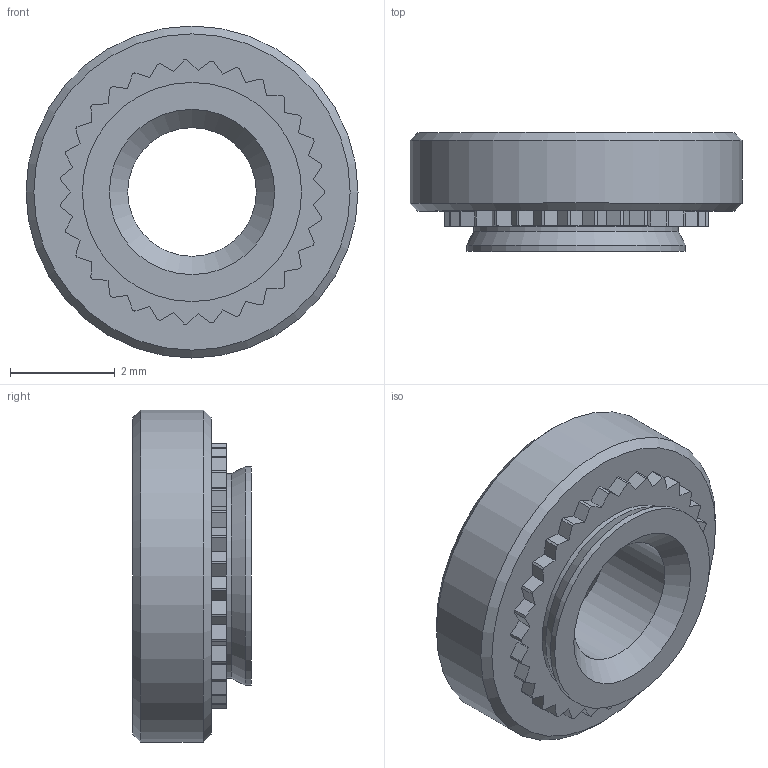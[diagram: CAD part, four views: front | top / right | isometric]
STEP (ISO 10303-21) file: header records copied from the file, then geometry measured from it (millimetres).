
FILE_DESCRIPTION(/* description */ (''),/* implementation_level */ '2;1');
FILE_NAME(/* name */ 'C:\Users\keval.kumar\Desktop\Fastit\Clinch nut\M3\Clinch Nut_M3_0.stp',/* time_stamp */ '2024-03-14T09:31:19+05:00',/* author */ ('keval.kumar'),/* organization */ (''),/* preprocessor_version */ 'ST-DEVELOPER v18.1',/* originating_system */ 'Autodesk Inventor 2022',/* authorisation */ '');
FILE_SCHEMA (('AUTOMOTIVE_DESIGN { 1 0 10303 214 3 1 1 }'));
Length unit declared in the file: millimetre
Products named in the file (1): Clinch Nut_M3_0
Bounding box: 6.35 x 2.27 x 6.35 mm (x, y, z)
Volume: 46.8 mm3; surface area: 109 mm2
Topology: 1 solids, 1 shells, 106 faces, 303 edges, 201 vertices
Faces by surface type: plane 66, cylinder 35, cone 5
Full cylindrical faces by diameter (mm): 2.459 x1, 3.91 x1, 4.19 x1, 6.35 x1
Entity records: 3507 total; most frequent: CARTESIAN_POINT 611, ORIENTED_EDGE 606, DIRECTION 594, EDGE_CURVE 303, LINE 226, VECTOR 226, VERTEX_POINT 201, AXIS2_PLACEMENT_3D 184
